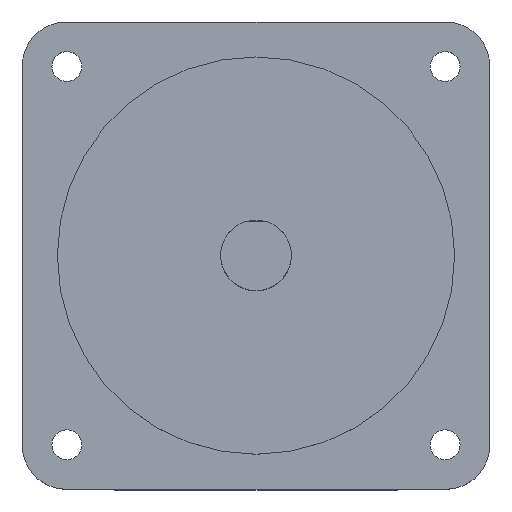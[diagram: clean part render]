
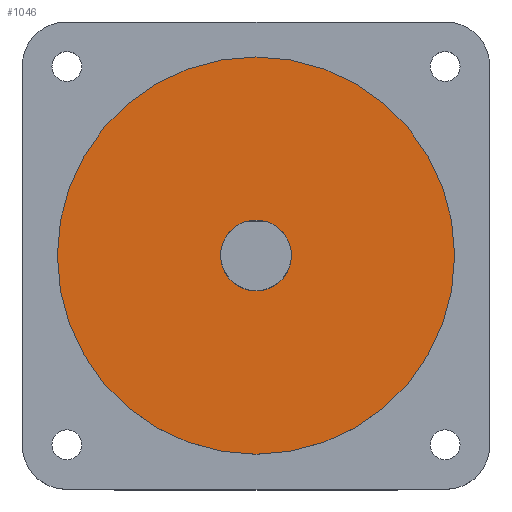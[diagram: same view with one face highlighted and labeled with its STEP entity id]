
A CAD part, top view. The second image highlights one B-rep face of the part: STEP entity #1046.
In plain terms, the highlighted planar face has unit normal (0, 0, 1).
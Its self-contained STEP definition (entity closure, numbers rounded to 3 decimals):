
#73 = VERTEX_POINT ( 'NONE', #895 ) ;
#96 = FACE_OUTER_BOUND ( 'NONE', #958, .T. ) ;
#97 = CIRCLE ( 'NONE', #1131, 6.5 ) ;
#174 = AXIS2_PLACEMENT_3D ( 'NONE', #233, #439, #893 ) ;
#233 = CARTESIAN_POINT ( 'NONE',  ( 0., 0., 82. ) ) ;
#250 = AXIS2_PLACEMENT_3D ( 'NONE', #400, #1381, #956 ) ;
#268 = CARTESIAN_POINT ( 'NONE',  ( 0., 0., 82. ) ) ;
#333 = CARTESIAN_POINT ( 'NONE',  ( -6.5, 0., 82. ) ) ;
#340 = ORIENTED_EDGE ( 'NONE', *, *, #696, .F. ) ;
#400 = CARTESIAN_POINT ( 'NONE',  ( 0., 0., 82. ) ) ;
#409 = DIRECTION ( 'NONE',  ( 1., 0., 0. ) ) ;
#429 = CARTESIAN_POINT ( 'NONE',  ( 0., 0., 82. ) ) ;
#439 = DIRECTION ( 'NONE',  ( 0., 0., 1. ) ) ;
#443 = AXIS2_PLACEMENT_3D ( 'NONE', #429, #936, #1312 ) ;
#445 = EDGE_CURVE ( 'NONE', #73, #659, #773, .T. ) ;
#481 = DIRECTION ( 'NONE',  ( 0., 0., 1. ) ) ;
#563 = EDGE_CURVE ( 'NONE', #659, #73, #664, .T. ) ;
#567 = ORIENTED_EDGE ( 'NONE', *, *, #1398, .F. ) ;
#574 = VERTEX_POINT ( 'NONE', #686 ) ;
#647 = FACE_BOUND ( 'NONE', #894, .T. ) ;
#659 = VERTEX_POINT ( 'NONE', #1360 ) ;
#664 = CIRCLE ( 'NONE', #250, 36.5 ) ;
#665 = AXIS2_PLACEMENT_3D ( 'NONE', #268, #481, #1031 ) ;
#686 = CARTESIAN_POINT ( 'NONE',  ( 6.5, 0., 82. ) ) ;
#696 = EDGE_CURVE ( 'NONE', #1246, #574, #1259, .T. ) ;
#769 = ORIENTED_EDGE ( 'NONE', *, *, #445, .T. ) ;
#773 = CIRCLE ( 'NONE', #174, 36.5 ) ;
#854 = DIRECTION ( 'NONE',  ( 0., 0., 1. ) ) ;
#893 = DIRECTION ( 'NONE',  ( 1., 0., 0. ) ) ;
#894 = EDGE_LOOP ( 'NONE', ( #340, #567 ) ) ;
#895 = CARTESIAN_POINT ( 'NONE',  ( 36.5, 0., 82. ) ) ;
#936 = DIRECTION ( 'NONE',  ( 0., 0., 1. ) ) ;
#956 = DIRECTION ( 'NONE',  ( 1., 0., 0. ) ) ;
#958 = EDGE_LOOP ( 'NONE', ( #1125, #769 ) ) ;
#1031 = DIRECTION ( 'NONE',  ( 1., 0., 0. ) ) ;
#1046 = ADVANCED_FACE ( 'NONE', ( #647, #96 ), #1077, .T. ) ;
#1077 = PLANE ( 'NONE',  #665 ) ;
#1125 = ORIENTED_EDGE ( 'NONE', *, *, #563, .T. ) ;
#1131 = AXIS2_PLACEMENT_3D ( 'NONE', #1287, #854, #409 ) ;
#1246 = VERTEX_POINT ( 'NONE', #333 ) ;
#1259 = CIRCLE ( 'NONE', #443, 6.5 ) ;
#1287 = CARTESIAN_POINT ( 'NONE',  ( 0., 0., 82. ) ) ;
#1312 = DIRECTION ( 'NONE',  ( 1., 0., 0. ) ) ;
#1360 = CARTESIAN_POINT ( 'NONE',  ( -36.5, 0., 82. ) ) ;
#1381 = DIRECTION ( 'NONE',  ( 0., 0., 1. ) ) ;
#1398 = EDGE_CURVE ( 'NONE', #574, #1246, #97, .T. ) ;
